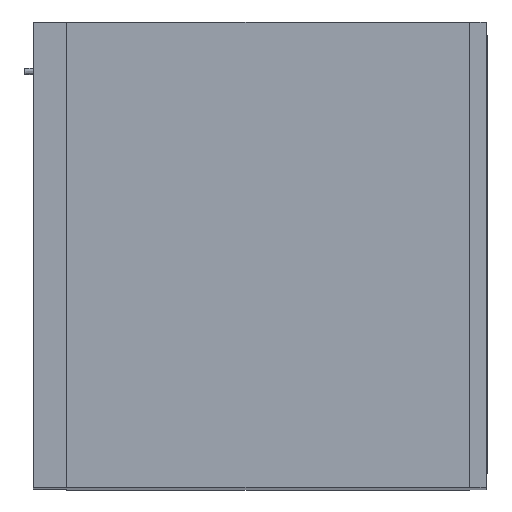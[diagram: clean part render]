
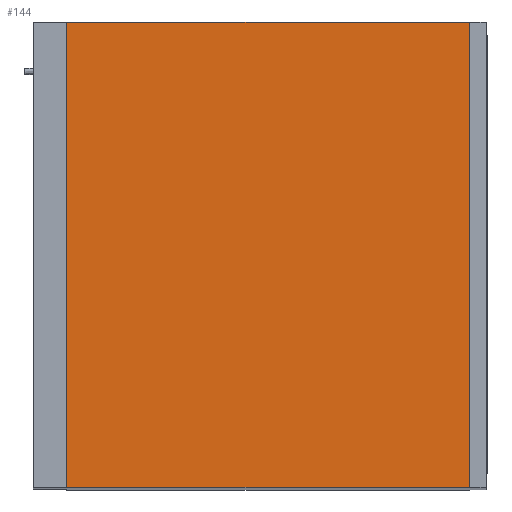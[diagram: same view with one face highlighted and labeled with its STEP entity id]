
A CAD part, top view. The second image highlights one B-rep face of the part: STEP entity #144.
In plain terms, the highlighted free-form (B-spline) face has degree [1, 1] with [2, 2] control points.
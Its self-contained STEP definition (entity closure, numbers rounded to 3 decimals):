
#144=ADVANCED_FACE('',(#206),#850,.T.);
#206=FACE_OUTER_BOUND('',#268,.T.);
#268=EDGE_LOOP('',(#549,#550,#551,#552));
#549=ORIENTED_EDGE('',*,*,#693,.F.);
#550=ORIENTED_EDGE('',*,*,#692,.T.);
#551=ORIENTED_EDGE('',*,*,#685,.T.);
#552=ORIENTED_EDGE('',*,*,#689,.F.);
#685=EDGE_CURVE('',#784,#783,#983,.T.);
#689=EDGE_CURVE('',#786,#783,#987,.T.);
#692=EDGE_CURVE('',#788,#784,#990,.T.);
#693=EDGE_CURVE('',#788,#786,#991,.T.);
#783=VERTEX_POINT('',#1926);
#784=VERTEX_POINT('',#1927);
#786=VERTEX_POINT('',#1929);
#788=VERTEX_POINT('',#1931);
#850=B_SPLINE_SURFACE_WITH_KNOTS('',1,1,((#1920,#1921),(#1922,#1923)),.UNSPECIFIED.,
.F.,.F.,.F.,(2,2),(2,2),(0.,1.),(0.,1.),.UNSPECIFIED.);
#983=B_SPLINE_CURVE_WITH_KNOTS('',1,(#1874,#1875),.UNSPECIFIED.,.F.,.F.,
(2,2),(0.,1.),.UNSPECIFIED.);
#987=B_SPLINE_CURVE_WITH_KNOTS('',1,(#1882,#1883),.UNSPECIFIED.,.F.,.F.,
(2,2),(0.,1.),.UNSPECIFIED.);
#990=B_SPLINE_CURVE_WITH_KNOTS('',1,(#1890,#1891),.UNSPECIFIED.,.F.,.F.,
(2,2),(0.,1.),.UNSPECIFIED.);
#991=B_SPLINE_CURVE_WITH_KNOTS('',1,(#1892,#1893),.UNSPECIFIED.,.F.,.F.,
(2,2),(0.,1.),.UNSPECIFIED.);
#1874=CARTESIAN_POINT('',(-20.174,279.5,1770.));
#1875=CARTESIAN_POINT('',(-504.174,279.5,1770.));
#1882=CARTESIAN_POINT('',(-504.174,-279.5,1770.));
#1883=CARTESIAN_POINT('',(-504.174,279.5,1770.));
#1890=CARTESIAN_POINT('',(-20.174,-279.5,1770.));
#1891=CARTESIAN_POINT('',(-20.174,279.5,1770.));
#1892=CARTESIAN_POINT('',(-20.174,-279.5,1770.));
#1893=CARTESIAN_POINT('',(-504.174,-279.5,1770.));
#1920=CARTESIAN_POINT('',(-20.174,-279.5,1770.));
#1921=CARTESIAN_POINT('',(-504.174,-279.5,1770.));
#1922=CARTESIAN_POINT('',(-20.174,279.5,1770.));
#1923=CARTESIAN_POINT('',(-504.174,279.5,1770.));
#1926=CARTESIAN_POINT('',(-504.174,279.5,1770.));
#1927=CARTESIAN_POINT('',(-20.174,279.5,1770.));
#1929=CARTESIAN_POINT('',(-504.174,-279.5,1770.));
#1931=CARTESIAN_POINT('',(-20.174,-279.5,1770.));
